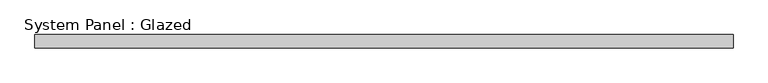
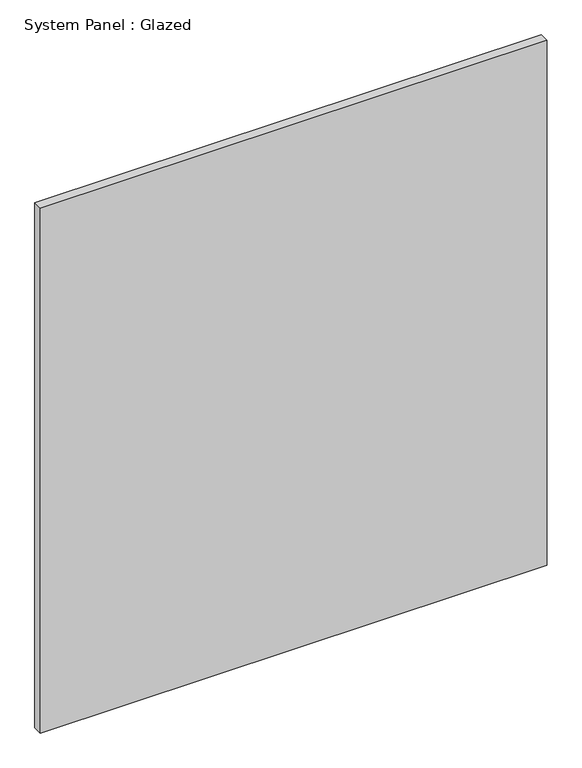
"""IFC4 building model written with IfcOpenShell, lengths in millimetres: plate geometry, System Panel : Glazed."""

import ifcopenshell
import ifcopenshell.guid

model = None  # the IFC model being written
_history = None  # IfcOwnerHistory: only IFC2X3 demands one
_inside = {}  # id of a spatial element -> (the spatial element, [elements in it])
_under = {}  # id of a project, library or spatial element -> (it, [spatial elements below it])
_declared = {}  # id of a project -> (the project, [libraries it declares])
_typed = {}  # id of a type object -> (the type object, [elements of that type])
_made_of = {}  # id of a material, layer set ... -> (it, [elements and type objects made of it])


def new_model(schema):
    """Start an empty IFC model of exactly this schema.

    Asked for "IFC4X3", IfcOpenShell would pick the latest addendum, in which some entities
    have other attributes; the version numbers below select the first issue.
    IFC2X3 requires an IfcOwnerHistory on every rooted entity: one is made here for all.
    """
    global model, _history
    if schema == "IFC4X3":
        model = ifcopenshell.file(schema_version=(4, 3, 0, 0))
    else:
        model = ifcopenshell.file(schema=schema)
    _inside.clear()
    _under.clear()
    _declared.clear()
    _typed.clear()
    _made_of.clear()
    _history = None
    if model.schema == "IFC2X3":
        org = make("IfcOrganization", Name="unknown")
        user = make(
            "IfcPersonAndOrganization",
            ThePerson=make("IfcPerson", FamilyName="unknown"),
            TheOrganization=org,
        )
        app = make(
            "IfcApplication",
            ApplicationDeveloper=org,
            Version="unknown",
            ApplicationFullName="unknown",
            ApplicationIdentifier="unknown",
        )
        _history = make(
            "IfcOwnerHistory",
            OwningUser=user,
            OwningApplication=app,
            ChangeAction="ADDED",
            CreationDate=0,
        )
    return model


def make(cls, **values):
    """One entity of the class cls with the attributes given. An attribute that is None is left unset."""
    return model.create_entity(
        cls, **{name: value for name, value in values.items() if value is not None}
    )


def rooted(cls, **values):
    """An entity with a GlobalId (a new one), such as an element, a storey or a relation."""
    return make(cls, GlobalId=ifcopenshell.guid.new(), OwnerHistory=_history, **values)


def si_unit(unit_type, name, prefix=None):
    """IfcSIUnit, for example si_unit("LENGTHUNIT", "METRE", prefix="MILLI")."""
    return make("IfcSIUnit", UnitType=unit_type, Prefix=prefix, Name=name)


def assignment(units):
    """IfcUnitAssignment: the units of a project."""
    return None if units is None else make("IfcUnitAssignment", Units=units)


def point(xyz):
    """IfcCartesianPoint."""
    return None if xyz is None else make("IfcCartesianPoint", Coordinates=xyz)


def direction(xyz):
    """IfcDirection."""
    return None if xyz is None else make("IfcDirection", DirectionRatios=xyz)


def frame(location, z_axis=None, x_axis=None):
    """IfcAxis2Placement3D, a coordinate frame: its origin and axes. An axis left out is left unset."""
    return make(
        "IfcAxis2Placement3D",
        Location=point(location),
        Axis=direction(z_axis),
        RefDirection=direction(x_axis),
    )


def origin():
    """The frame at (0, 0, 0) with its axes left unset."""
    return frame((0.0, 0.0, 0.0))


def origin_with_axes():
    """The frame at (0, 0, 0) with the z axis (0, 0, 1) and the x axis (1, 0, 0) written out."""
    return frame((0.0, 0.0, 0.0), z_axis=(0.0, 0.0, 1.0), x_axis=(1.0, 0.0, 0.0))


def place(relative_to, where):
    """IfcLocalPlacement: puts the frame where relative to a parent placement (None: the world)."""
    return make(
        "IfcLocalPlacement", PlacementRelTo=relative_to, RelativePlacement=where
    )


def context(
    kind, dimensions, precision=None, world=None, true_north=None, identifier=None
):
    """IfcGeometricRepresentationContext, for example the 3D "Model" context."""
    return make(
        "IfcGeometricRepresentationContext",
        ContextIdentifier=identifier,
        ContextType=kind,
        CoordinateSpaceDimension=dimensions,
        Precision=precision,
        WorldCoordinateSystem=world,
        TrueNorth=true_north,
    )


def project(units=None, contexts=None):
    """IfcProject with its units and contexts."""
    return rooted(
        "IfcProject",
        Name="project",
        RepresentationContexts=contexts,
        UnitsInContext=assignment(units),
    )


def spatial(cls, under=None, at=None, **own):
    """A site, building, storey or space (cls), placed at a placement, below another one or the project."""
    s = rooted(cls, ObjectPlacement=at, **own)
    if under is not None:
        _under.setdefault(under.id(), (under, []))[1].append(s)
    return s


def polyline(points):
    """IfcPolyline through the points."""
    return make("IfcPolyline", Points=[point(p) for p in points])


def outline(outer, holes=None, kind="AREA"):
    """IfcArbitraryClosedProfileDef: a profile drawn as a closed curve; with holes, ...WithVoids."""
    if holes is None:
        return make("IfcArbitraryClosedProfileDef", ProfileType=kind, OuterCurve=outer)
    return make(
        "IfcArbitraryProfileDefWithVoids",
        ProfileType=kind,
        OuterCurve=outer,
        InnerCurves=holes,
    )


def extrude(swept, where, along, depth):
    """IfcExtrudedAreaSolid: the profile swept, set in the frame where, extruded along a direction by depth."""
    return make(
        "IfcExtrudedAreaSolid",
        SweptArea=swept,
        Position=where,
        ExtrudedDirection=direction(along),
        Depth=depth,
    )


def shape(context_of_items, identifier, shape_type, items):
    """IfcShapeRepresentation: the items that make up one representation, for example the "Body"."""
    return make(
        "IfcShapeRepresentation",
        ContextOfItems=context_of_items,
        RepresentationIdentifier=identifier,
        RepresentationType=shape_type,
        Items=items,
    )


def source(mapping_origin, context_of_items, identifier, shape_type, items):
    """IfcRepresentationMap: a shape defined once, which mapped items show again and again."""
    return make(
        "IfcRepresentationMap",
        MappingOrigin=mapping_origin,
        MappedRepresentation=shape(context_of_items, identifier, shape_type, items),
    )


def transform(
    local_origin,
    x_axis=None,
    y_axis=None,
    z_axis=None,
    scale=None,
    scale2=None,
    scale3=None,
    uniform=True,
):
    """IfcCartesianTransformationOperator3D, or its non-uniform kind. x_axis, y_axis, z_axis: its Axis1, 2, 3."""
    if uniform:
        return make(
            "IfcCartesianTransformationOperator3D",
            Axis1=direction(x_axis),
            Axis2=direction(y_axis),
            LocalOrigin=point(local_origin),
            Scale=scale,
            Axis3=direction(z_axis),
        )
    return make(
        "IfcCartesianTransformationOperator3DnonUniform",
        Axis1=direction(x_axis),
        Axis2=direction(y_axis),
        LocalOrigin=point(local_origin),
        Scale=scale,
        Axis3=direction(z_axis),
        Scale2=scale2,
        Scale3=scale3,
    )


def mapped(mapping_source, mapping_target):
    """IfcMappedItem: shows the shape of a source again, moved by a transform."""
    return make(
        "IfcMappedItem", MappingSource=mapping_source, MappingTarget=mapping_target
    )


def made_of(thing, what):
    """Note that an element or type object is made of a material, layer set ...; save() writes the relation."""
    if what is not None:
        _made_of.setdefault(what.id(), (what, []))[1].append(thing)
    return thing


def element(
    cls,
    number,
    at=None,
    inside=None,
    cuts=None,
    type_object=None,
    material=None,
    context=None,
    identifier="Body",
    shape_type=None,
    held_by="IfcProductDefinitionShape",
    body=None,
    shapes=None,
    **own,
):
    """One element of the class cls, such as IfcWall. Its Tag is "e" and its number.

    at: its placement. inside: the storey or other place that contains it. cuts: it is an
    opening in that element (IfcRelVoidsElement). A single representation is given by context,
    identifier, shape_type and body (its items); several are given by shapes. held_by: the class
    of the entity that holds the representations. save() writes the other relations.
    """
    e = rooted(cls, Tag="e%d" % number, ObjectPlacement=at, **own)
    if body is not None:
        shapes = [shape(context, identifier, shape_type, body)]
    if shapes is not None:
        e.Representation = make(held_by, Representations=shapes)
    if inside is not None:
        _inside.setdefault(inside.id(), (inside, []))[1].append(e)
    if cuts is not None:
        rooted(
            "IfcRelVoidsElement", RelatingBuildingElement=cuts, RelatedOpeningElement=e
        )
    if type_object is not None:
        _typed.setdefault(type_object.id(), (type_object, []))[1].append(e)
    return made_of(e, material)


def aggregate(whole, parts):
    """IfcRelAggregates: a whole, such as a stair, and the parts it consists of."""
    return rooted("IfcRelAggregates", RelatingObject=whole, RelatedObjects=parts)


def save(model, path):
    """Write the relations noted so far, then the file.

    IfcRelAggregates (storeys below a building ...), IfcRelContainedInSpatialStructure (elements
    in a storey), IfcRelDefinesByType, IfcRelAssociatesMaterial and IfcRelDeclares: one each for
    every whole, place, type object, material and project.
    """
    for whole, parts in _under.values():
        aggregate(whole, parts)
    for where, things in _inside.values():
        rooted(
            "IfcRelContainedInSpatialStructure",
            RelatedElements=things,
            RelatingStructure=where,
        )
    for kind, things in _typed.values():
        rooted("IfcRelDefinesByType", RelatedObjects=things, RelatingType=kind)
    for what, things in _made_of.values():
        rooted("IfcRelAssociatesMaterial", RelatedObjects=things, RelatingMaterial=what)
    for by, libraries in _declared.values():
        rooted("IfcRelDeclares", RelatingContext=by, RelatedDefinitions=libraries)
    model.write(path)


def system_panel_glazed_334374ff(model_context):
    return source(origin(), model_context, "Body", "SweptSolid", [
        extrude(outline(polyline([(662.4999998, -49.5), (-662.4999998, -49.5), (-662.4999998, -24.5), (662.4999998, -24.5), (662.4999998, -49.5)])), origin_with_axes(), (0.0, 0.0, 1.0), 1450.0),
    ])


if __name__ == "__main__":
    model = new_model("IFC4")
    model_context = context("Model", 3, world=origin())
    ifc_project = project(units=[si_unit("LENGTHUNIT", "METRE", prefix="MILLI")], contexts=[model_context])
    site = spatial("IfcSite", under=ifc_project)
    building = spatial("IfcBuilding", under=site)
    placement = place(None, origin())
    system_panel_glazed_shape = system_panel_glazed_334374ff(model_context)
    element("IfcPlate", 1, ObjectType="System Panel : Glazed", at=placement, inside=building, context=model_context, shape_type="MappedRepresentation", body=[
        mapped(system_panel_glazed_shape, transform((0.0, 0.0, 0.0), x_axis=(1.0, 0.0, 0.0), y_axis=(0.0, 1.0, 0.0), z_axis=(0.0, 0.0, 1.0))),
    ])
    save(model, "model.ifc")
